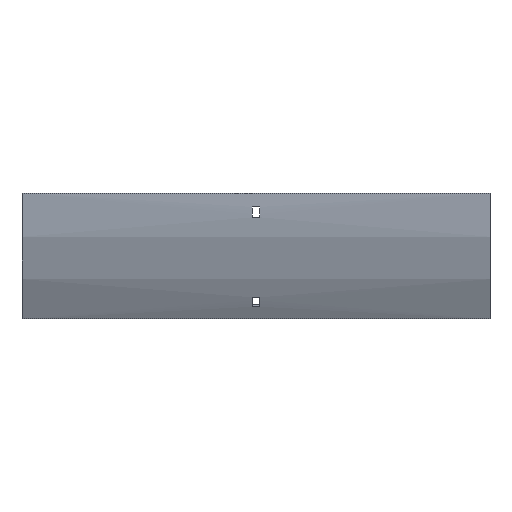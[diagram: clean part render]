
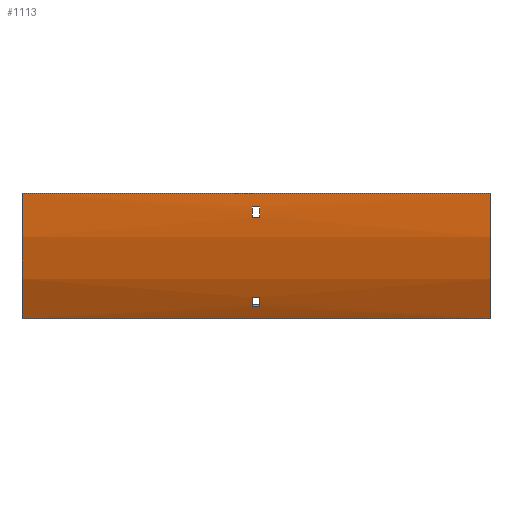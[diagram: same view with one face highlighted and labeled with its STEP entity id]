
A CAD part, front view. The second image highlights one B-rep face of the part: STEP entity #1113.
In plain terms, the highlighted cylindrical face has radius 217.5 mm (diameter 435 mm), a partial arc.
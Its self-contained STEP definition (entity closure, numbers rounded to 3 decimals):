
#1 = EDGE_CURVE ( 'NONE', #207, #1011, #1057, .T. ) ;
#8 = ORIENTED_EDGE ( 'NONE', *, *, #74, .T. ) ;
#19 = CARTESIAN_POINT ( 'NONE',  ( -3.25, -97.98, -90.055 ) ) ;
#33 = FACE_OUTER_BOUND ( 'NONE', #570, .T. ) ;
#43 = AXIS2_PLACEMENT_3D ( 'NONE', #1648, #436, #1628 ) ;
#52 = ORIENTED_EDGE ( 'NONE', *, *, #977, .T. ) ;
#74 = EDGE_CURVE ( 'NONE', #1011, #1363, #403, .T. ) ;
#142 = VECTOR ( 'NONE', #1070, 1000. ) ;
#156 = VERTEX_POINT ( 'NONE', #477 ) ;
#161 = CIRCLE ( 'NONE', #382, 217.5 ) ;
#207 = VERTEX_POINT ( 'NONE', #1512 ) ;
#238 = EDGE_CURVE ( 'NONE', #396, #1469, #433, .T. ) ;
#264 = ORIENTED_EDGE ( 'NONE', *, *, #238, .T. ) ;
#307 = DIRECTION ( 'NONE',  ( -1., 0., 0. ) ) ;
#312 = AXIS2_PLACEMENT_3D ( 'NONE', #961, #1083, #1110 ) ;
#313 = CARTESIAN_POINT ( 'NONE',  ( -3.25, -116.484, -21. ) ) ;
#329 = LINE ( 'NONE', #853, #1530 ) ;
#335 = VECTOR ( 'NONE', #492, 1000. ) ;
#340 = CARTESIAN_POINT ( 'NONE',  ( 202., -97.98, -90.055 ) ) ;
#343 = ORIENTED_EDGE ( 'NONE', *, *, #830, .F. ) ;
#382 = AXIS2_PLACEMENT_3D ( 'NONE', #710, #1215, #575 ) ;
#388 = VERTEX_POINT ( 'NONE', #601 ) ;
#396 = VERTEX_POINT ( 'NONE', #1228 ) ;
#401 = CARTESIAN_POINT ( 'NONE',  ( 202., 100., 0. ) ) ;
#403 = CIRCLE ( 'NONE', #1677, 217.5 ) ;
#409 = CARTESIAN_POINT ( 'NONE',  ( 202., -116.484, -21. ) ) ;
#427 = DIRECTION ( 'NONE',  ( -1., 0., 0. ) ) ;
#433 = CIRCLE ( 'NONE', #1388, 217.5 ) ;
#436 = DIRECTION ( 'NONE',  ( 1., 0., 0. ) ) ;
#443 = CARTESIAN_POINT ( 'NONE',  ( -3.25, -94.074, -98.192 ) ) ;
#477 = CARTESIAN_POINT ( 'NONE',  ( 202., -117.5, 0. ) ) ;
#492 = DIRECTION ( 'NONE',  ( -1., 0., 0. ) ) ;
#570 = EDGE_LOOP ( 'NONE', ( #264, #1389, #1320, #1190 ) ) ;
#575 = DIRECTION ( 'NONE',  ( 0., 0., -1. ) ) ;
#579 = CARTESIAN_POINT ( 'NONE',  ( -202., 100., 0. ) ) ;
#584 = ORIENTED_EDGE ( 'NONE', *, *, #1532, .F. ) ;
#586 = DIRECTION ( 'NONE',  ( 1., 0., 0. ) ) ;
#594 = FACE_BOUND ( 'NONE', #781, .T. ) ;
#601 = CARTESIAN_POINT ( 'NONE',  ( 3.25, -97.98, -90.055 ) ) ;
#671 = EDGE_CURVE ( 'NONE', #1455, #1469, #1499, .T. ) ;
#697 = CYLINDRICAL_SURFACE ( 'NONE', #312, 217.5 ) ;
#704 = CARTESIAN_POINT ( 'NONE',  ( 3.25, -117.169, -12. ) ) ;
#710 = CARTESIAN_POINT ( 'NONE',  ( -3.25, 100., 0. ) ) ;
#725 = DIRECTION ( 'NONE',  ( -1., 0., 0. ) ) ;
#781 = EDGE_LOOP ( 'NONE', ( #584, #343, #1373, #1410 ) ) ;
#811 = CARTESIAN_POINT ( 'NONE',  ( 202., -94.074, -98.192 ) ) ;
#830 = EDGE_CURVE ( 'NONE', #388, #1334, #1534, .T. ) ;
#834 = CIRCLE ( 'NONE', #913, 217.5 ) ;
#837 = DIRECTION ( 'NONE',  ( 0., 0., -1. ) ) ;
#853 = CARTESIAN_POINT ( 'NONE',  ( 202., -117.5, 0. ) ) ;
#892 = DIRECTION ( 'NONE',  ( 0., 0., 1. ) ) ;
#897 = CARTESIAN_POINT ( 'NONE',  ( -3.25, 100., 0. ) ) ;
#906 = CIRCLE ( 'NONE', #1492, 217.5 ) ;
#913 = AXIS2_PLACEMENT_3D ( 'NONE', #1421, #1663, #1559 ) ;
#918 = DIRECTION ( 'NONE',  ( 1., 0., 0. ) ) ;
#926 = EDGE_CURVE ( 'NONE', #1005, #929, #1054, .T. ) ;
#929 = VERTEX_POINT ( 'NONE', #935 ) ;
#935 = CARTESIAN_POINT ( 'NONE',  ( 3.25, -94.074, -98.192 ) ) ;
#938 = ORIENTED_EDGE ( 'NONE', *, *, #1544, .T. ) ;
#961 = CARTESIAN_POINT ( 'NONE',  ( 202., 100., 0. ) ) ;
#969 = CARTESIAN_POINT ( 'NONE',  ( 202., -88.361, -108.75 ) ) ;
#971 = VECTOR ( 'NONE', #427, 1000. ) ;
#977 = EDGE_CURVE ( 'NONE', #1018, #207, #1567, .T. ) ;
#1005 = VERTEX_POINT ( 'NONE', #443 ) ;
#1011 = VERTEX_POINT ( 'NONE', #313 ) ;
#1018 = VERTEX_POINT ( 'NONE', #704 ) ;
#1054 = LINE ( 'NONE', #811, #142 ) ;
#1057 = LINE ( 'NONE', #409, #971 ) ;
#1068 = CARTESIAN_POINT ( 'NONE',  ( -202., -88.361, -108.75 ) ) ;
#1070 = DIRECTION ( 'NONE',  ( 1., 0., 0. ) ) ;
#1083 = DIRECTION ( 'NONE',  ( -1., 0., 0. ) ) ;
#1100 = DIRECTION ( 'NONE',  ( 1., 0., 0. ) ) ;
#1110 = DIRECTION ( 'NONE',  ( 0., 0., 1. ) ) ;
#1113 = ADVANCED_FACE ( 'NONE', ( #33, #1626, #594 ), #697, .T. ) ;
#1166 = DIRECTION ( 'NONE',  ( -1., 0., 0. ) ) ;
#1185 = EDGE_CURVE ( 'NONE', #929, #388, #834, .T. ) ;
#1187 = VECTOR ( 'NONE', #1100, 1000. ) ;
#1190 = ORIENTED_EDGE ( 'NONE', *, *, #1591, .T. ) ;
#1215 = DIRECTION ( 'NONE',  ( 1., 0., 0. ) ) ;
#1228 = CARTESIAN_POINT ( 'NONE',  ( -202., -117.5, 0. ) ) ;
#1258 = ORIENTED_EDGE ( 'NONE', *, *, #1, .T. ) ;
#1272 = EDGE_LOOP ( 'NONE', ( #1258, #8, #938, #52 ) ) ;
#1298 = CARTESIAN_POINT ( 'NONE',  ( -3.25, -117.169, -12. ) ) ;
#1320 = ORIENTED_EDGE ( 'NONE', *, *, #1387, .F. ) ;
#1334 = VERTEX_POINT ( 'NONE', #19 ) ;
#1363 = VERTEX_POINT ( 'NONE', #1298 ) ;
#1373 = ORIENTED_EDGE ( 'NONE', *, *, #1185, .F. ) ;
#1387 = EDGE_CURVE ( 'NONE', #156, #1455, #906, .T. ) ;
#1388 = AXIS2_PLACEMENT_3D ( 'NONE', #579, #586, #837 ) ;
#1389 = ORIENTED_EDGE ( 'NONE', *, *, #671, .F. ) ;
#1410 = ORIENTED_EDGE ( 'NONE', *, *, #926, .F. ) ;
#1421 = CARTESIAN_POINT ( 'NONE',  ( 3.25, 100., 0. ) ) ;
#1449 = DIRECTION ( 'NONE',  ( 0., 0., -1. ) ) ;
#1455 = VERTEX_POINT ( 'NONE', #969 ) ;
#1469 = VERTEX_POINT ( 'NONE', #1068 ) ;
#1483 = CARTESIAN_POINT ( 'NONE',  ( 202., -88.361, -108.75 ) ) ;
#1492 = AXIS2_PLACEMENT_3D ( 'NONE', #401, #918, #1449 ) ;
#1499 = LINE ( 'NONE', #1483, #1687 ) ;
#1501 = CARTESIAN_POINT ( 'NONE',  ( 202., -117.169, -12. ) ) ;
#1512 = CARTESIAN_POINT ( 'NONE',  ( 3.25, -116.484, -21. ) ) ;
#1530 = VECTOR ( 'NONE', #725, 1000. ) ;
#1532 = EDGE_CURVE ( 'NONE', #1334, #1005, #161, .T. ) ;
#1534 = LINE ( 'NONE', #340, #335 ) ;
#1544 = EDGE_CURVE ( 'NONE', #1363, #1018, #1618, .T. ) ;
#1559 = DIRECTION ( 'NONE',  ( 0., 0., 1. ) ) ;
#1567 = CIRCLE ( 'NONE', #43, 217.5 ) ;
#1591 = EDGE_CURVE ( 'NONE', #156, #396, #329, .T. ) ;
#1618 = LINE ( 'NONE', #1501, #1187 ) ;
#1626 = FACE_BOUND ( 'NONE', #1272, .T. ) ;
#1628 = DIRECTION ( 'NONE',  ( 0., 0., -1. ) ) ;
#1648 = CARTESIAN_POINT ( 'NONE',  ( 3.25, 100., 0. ) ) ;
#1663 = DIRECTION ( 'NONE',  ( -1., 0., 0. ) ) ;
#1677 = AXIS2_PLACEMENT_3D ( 'NONE', #897, #1166, #892 ) ;
#1687 = VECTOR ( 'NONE', #307, 1000. ) ;
